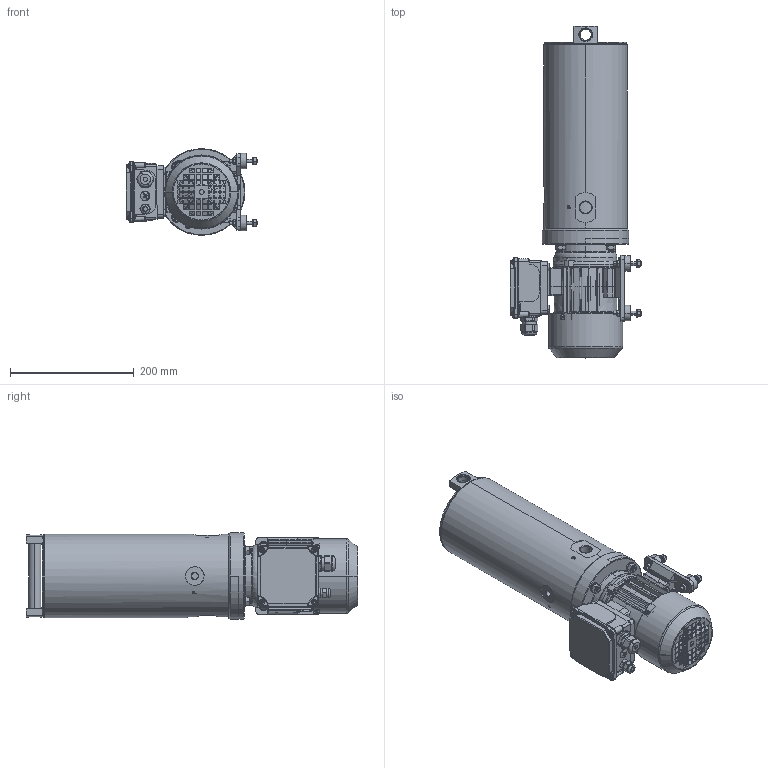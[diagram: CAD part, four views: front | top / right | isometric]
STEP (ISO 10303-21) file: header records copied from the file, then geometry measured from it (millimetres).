
FILE_DESCRIPTION((''),'2;1');
FILE_NAME('1573','2017-10-26T',('f.kollmann'),(''),'PRO/ENGINEER BY PARAMETRIC TECHNOLOGY CORPORATION, 2015110','PRO/ENGINEER BY PARAMETRIC TECHNOLOGY CORPORATION, 2015110','');
FILE_SCHEMA(('AUTOMOTIVE_DESIGN { 1 0 10303 214 1 1 1 1 }'));
Products named in the file (1): 1573
Bounding box: 213.03 x 535.7 x 140 mm (x, y, z)
Volume: 5965181.2 mm3; surface area: 519833.2 mm2
Topology: 1 solids, 52 shells, 3098 faces, 8414 edges, 5438 vertices
Faces by surface type: plane 1420, cylinder 993, cone 400, torus 153, bspline 74, sphere 48, extrusion 10
Entity records: 144236 total; most frequent: CARTESIAN_POINT 36442, ORIENTED_EDGE 16612, DIRECTION 15954, PRESENTATION_STYLE_ASSIGNMENT 9000, STYLED_ITEM 8348, CURVE_STYLE 8338, EDGE_CURVE 8328, AXIS2_PLACEMENT_3D 5935
